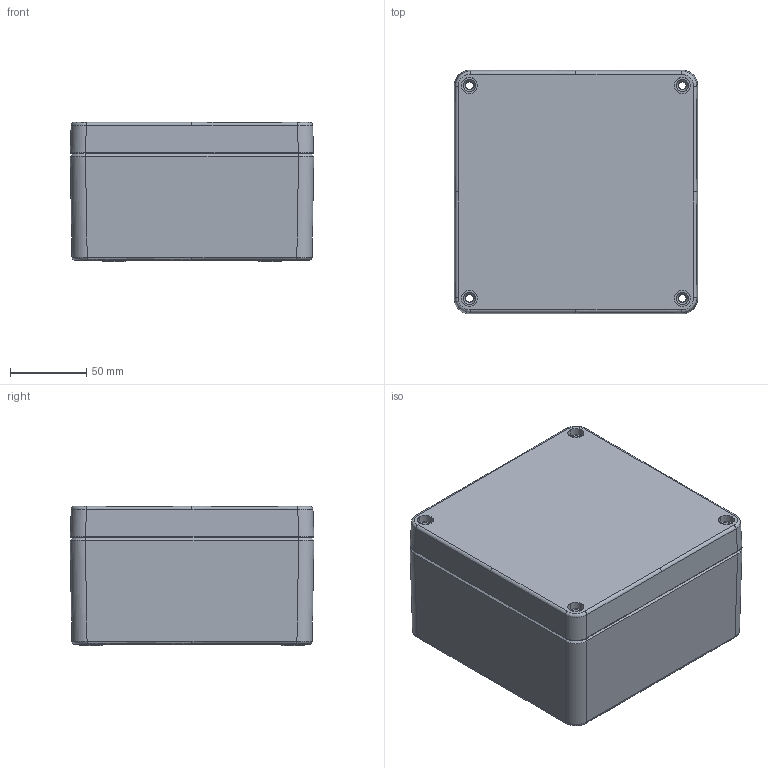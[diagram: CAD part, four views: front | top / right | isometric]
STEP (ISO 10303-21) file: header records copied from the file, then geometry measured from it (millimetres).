
FILE_DESCRIPTION (( 'STEP AP203' ), '1' );
FILE_NAME ('ALU ASSY 16016090.STEP', '2024-08-27T07:37:23', ( '' ), ( '' ), 'SwSTEP 2.0', 'SolidWorks 2018', '' );
FILE_SCHEMA (( 'CONFIG_CONTROL_DESIGN' ));
Length unit declared in the file: millimetre
Products named in the file (3): ALU LID 16016090; ALU BASE 16016090; ALU ASSY 16016090
Assembly tree (2 placements, depth 2):
  ALU ASSY 16016090
    ALU BASE 16016090
    ALU LID 16016090
Bounding box: 160.19 x 160.36 x 91.65 mm (x, y, z)
Volume: 570638.2 mm3; surface area: 228342.7 mm2
Topology: 2 solids, 2 shells, 2379 faces, 6435 edges, 4195 vertices
Faces by surface type: plane 1657, bspline 387, cylinder 291, cone 44
Entity records: 100291 total; most frequent: CARTESIAN_POINT 44141, ORIENTED_EDGE 12816, DIRECTION 9308, EDGE_CURVE 6408, LINE 4650, VECTOR 4650, VERTEX_POINT 4189, EDGE_LOOP 2549
